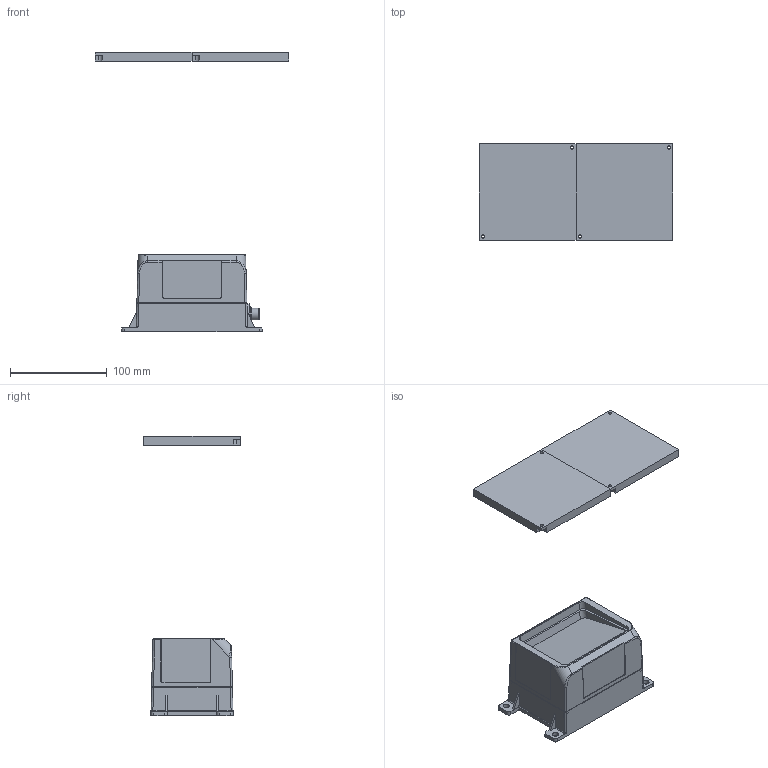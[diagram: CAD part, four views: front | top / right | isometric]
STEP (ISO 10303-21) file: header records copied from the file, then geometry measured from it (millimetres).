
FILE_DESCRIPTION((''),'2;1');
FILE_NAME('15300349.stp','2009-11-09T13:42:09',(''),(''),'Mechanical Desktop 2009','Mechanical Desktop 2009',', , ');
FILE_SCHEMA(('CONFIG_CONTROL_DESIGN'));
Length unit declared in the file: millimetre
Products named in the file (1): ZEICHNUNG2
Bounding box: 200 x 100 x 288.4 mm (x, y, z)
Volume: 667244.2 mm3; surface area: 139293.3 mm2
Topology: 6 solids, 6 shells, 337 faces, 883 edges, 574 vertices
Faces by surface type: plane 152, cylinder 147, cone 16, bspline 16, torus 6
Entity records: 12668 total; most frequent: CARTESIAN_POINT 3957, DIRECTION 1865, ORIENTED_EDGE 1766, EDGE_CURVE 883, AXIS2_PLACEMENT_3D 670, VERTEX_POINT 574, VECTOR 525, LINE 525
